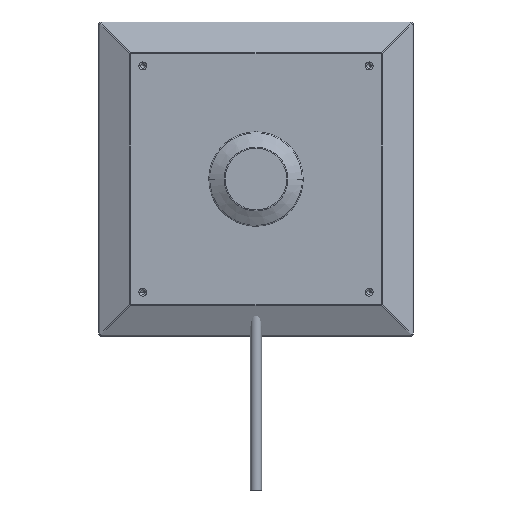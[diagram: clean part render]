
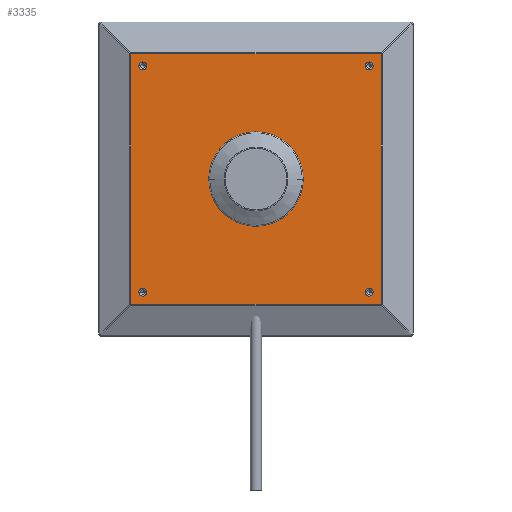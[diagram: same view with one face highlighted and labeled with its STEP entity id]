
A CAD part, front view. The second image highlights one B-rep face of the part: STEP entity #3335.
In plain terms, the highlighted planar face has unit normal (0, -1, 0) as drawn and (0, 1, 0) by its records, which use the part's own axes.
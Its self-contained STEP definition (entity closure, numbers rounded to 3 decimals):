
#9 = CARTESIAN_POINT ( 'NONE',  ( -54., 10., 55.914 ) ) ;
#14 = DIRECTION ( 'NONE',  ( 0., 0., 1. ) ) ;
#107 = EDGE_CURVE ( 'NONE', #1000, #1099, #1517, .T. ) ;
#250 = DIRECTION ( 'NONE',  ( 0., 0., 1. ) ) ;
#282 = AXIS2_PLACEMENT_3D ( 'NONE', #4522, #2954, #2633 ) ;
#301 = VECTOR ( 'NONE', #1056, 1000. ) ;
#338 = CARTESIAN_POINT ( 'NONE',  ( 59.778, 10., 0. ) ) ;
#441 = DIRECTION ( 'NONE',  ( 0., -1., 0. ) ) ;
#447 = DIRECTION ( 'NONE',  ( 0., 0., 1. ) ) ;
#575 = DIRECTION ( 'NONE',  ( 0., 0., 1. ) ) ;
#658 = ORIENTED_EDGE ( 'NONE', *, *, #107, .T. ) ;
#688 = CARTESIAN_POINT ( 'NONE',  ( -54., 10., -55.914 ) ) ;
#689 = VECTOR ( 'NONE', #250, 1000. ) ;
#768 = DIRECTION ( 'NONE',  ( 0., -1., 0. ) ) ;
#786 = VERTEX_POINT ( 'NONE', #3111 ) ;
#792 = ORIENTED_EDGE ( 'NONE', *, *, #1455, .T. ) ;
#798 = AXIS2_PLACEMENT_3D ( 'NONE', #4136, #3015, #4511 ) ;
#800 = DIRECTION ( 'NONE',  ( 0., 0., 1. ) ) ;
#828 = CIRCLE ( 'NONE', #2372, 1.914 ) ;
#918 = EDGE_CURVE ( 'NONE', #3641, #2852, #4218, .T. ) ;
#963 = CARTESIAN_POINT ( 'NONE',  ( 54., 10., 52.086 ) ) ;
#972 = VERTEX_POINT ( 'NONE', #2090 ) ;
#1000 = VERTEX_POINT ( 'NONE', #2914 ) ;
#1004 = DIRECTION ( 'NONE',  ( 0., 1., 0. ) ) ;
#1052 = ORIENTED_EDGE ( 'NONE', *, *, #1077, .T. ) ;
#1056 = DIRECTION ( 'NONE',  ( -1., 0., 0. ) ) ;
#1072 = ORIENTED_EDGE ( 'NONE', *, *, #1947, .T. ) ;
#1077 = EDGE_CURVE ( 'NONE', #2852, #3641, #2577, .T. ) ;
#1099 = VERTEX_POINT ( 'NONE', #1205 ) ;
#1114 = EDGE_CURVE ( 'NONE', #1897, #1953, #1891, .T. ) ;
#1205 = CARTESIAN_POINT ( 'NONE',  ( 59.778, 10., 59.778 ) ) ;
#1235 = ORIENTED_EDGE ( 'NONE', *, *, #3397, .T. ) ;
#1349 = ORIENTED_EDGE ( 'NONE', *, *, #2508, .T. ) ;
#1399 = FACE_OUTER_BOUND ( 'NONE', #1668, .T. ) ;
#1455 = EDGE_CURVE ( 'NONE', #1953, #1897, #2788, .T. ) ;
#1511 = EDGE_CURVE ( 'NONE', #1099, #972, #2865, .T. ) ;
#1517 = LINE ( 'NONE', #3719, #4442 ) ;
#1661 = AXIS2_PLACEMENT_3D ( 'NONE', #4085, #768, #447 ) ;
#1668 = EDGE_LOOP ( 'NONE', ( #658, #3000, #1235, #4632 ) ) ;
#1742 = AXIS2_PLACEMENT_3D ( 'NONE', #3558, #3891, #575 ) ;
#1747 = FACE_BOUND ( 'NONE', #4249, .T. ) ;
#1818 = ORIENTED_EDGE ( 'NONE', *, *, #3065, .T. ) ;
#1891 = CIRCLE ( 'NONE', #282, 1.914 ) ;
#1897 = VERTEX_POINT ( 'NONE', #2248 ) ;
#1928 = EDGE_LOOP ( 'NONE', ( #1072, #1349 ) ) ;
#1947 = EDGE_CURVE ( 'NONE', #2964, #2115, #3971, .T. ) ;
#1953 = VERTEX_POINT ( 'NONE', #4412 ) ;
#2058 = AXIS2_PLACEMENT_3D ( 'NONE', #2147, #3583, #4339 ) ;
#2090 = CARTESIAN_POINT ( 'NONE',  ( 59.778, 10., -59.778 ) ) ;
#2115 = VERTEX_POINT ( 'NONE', #3665 ) ;
#2117 = EDGE_LOOP ( 'NONE', ( #792, #2515 ) ) ;
#2141 = ORIENTED_EDGE ( 'NONE', *, *, #918, .T. ) ;
#2147 = CARTESIAN_POINT ( 'NONE',  ( -54., 10., 54. ) ) ;
#2153 = EDGE_CURVE ( 'NONE', #3852, #3362, #3036, .T. ) ;
#2248 = CARTESIAN_POINT ( 'NONE',  ( 54., 10., -55.914 ) ) ;
#2249 = VECTOR ( 'NONE', #4355, 1000. ) ;
#2367 = CARTESIAN_POINT ( 'NONE',  ( -54., 10., -54. ) ) ;
#2372 = AXIS2_PLACEMENT_3D ( 'NONE', #2367, #3517, #4594 ) ;
#2438 = LINE ( 'NONE', #2463, #689 ) ;
#2463 = CARTESIAN_POINT ( 'NONE',  ( -59.778, 10., 0. ) ) ;
#2508 = EDGE_CURVE ( 'NONE', #2115, #2964, #4147, .T. ) ;
#2515 = ORIENTED_EDGE ( 'NONE', *, *, #1114, .T. ) ;
#2577 = CIRCLE ( 'NONE', #1661, 1.914 ) ;
#2633 = DIRECTION ( 'NONE',  ( 0., 0., 1. ) ) ;
#2788 = CIRCLE ( 'NONE', #3013, 1.914 ) ;
#2852 = VERTEX_POINT ( 'NONE', #963 ) ;
#2855 = DIRECTION ( 'NONE',  ( 0., 0., 1. ) ) ;
#2865 = LINE ( 'NONE', #338, #2249 ) ;
#2900 = FACE_BOUND ( 'NONE', #4047, .T. ) ;
#2911 = AXIS2_PLACEMENT_3D ( 'NONE', #4765, #1004, #2855 ) ;
#2914 = CARTESIAN_POINT ( 'NONE',  ( -59.778, 10., 59.778 ) ) ;
#2954 = DIRECTION ( 'NONE',  ( 0., -1., 0. ) ) ;
#2964 = VERTEX_POINT ( 'NONE', #9 ) ;
#3000 = ORIENTED_EDGE ( 'NONE', *, *, #1511, .T. ) ;
#3013 = AXIS2_PLACEMENT_3D ( 'NONE', #3019, #441, #800 ) ;
#3015 = DIRECTION ( 'NONE',  ( 0., -1., 0. ) ) ;
#3019 = CARTESIAN_POINT ( 'NONE',  ( 54., 10., -54. ) ) ;
#3036 = CIRCLE ( 'NONE', #3512, 1.914 ) ;
#3065 = EDGE_CURVE ( 'NONE', #3362, #3852, #828, .T. ) ;
#3111 = CARTESIAN_POINT ( 'NONE',  ( -59.778, 10., -59.778 ) ) ;
#3227 = FACE_BOUND ( 'NONE', #1928, .T. ) ;
#3283 = CARTESIAN_POINT ( 'NONE',  ( -54., 10., -54. ) ) ;
#3296 = PLANE ( 'NONE',  #2911 ) ;
#3335 = ADVANCED_FACE ( 'NONE', ( #1399, #3589, #1747, #3227, #2900 ), #3296, .T. ) ;
#3344 = EDGE_CURVE ( 'NONE', #786, #1000, #2438, .T. ) ;
#3362 = VERTEX_POINT ( 'NONE', #688 ) ;
#3397 = EDGE_CURVE ( 'NONE', #972, #786, #3925, .T. ) ;
#3512 = AXIS2_PLACEMENT_3D ( 'NONE', #3283, #3658, #14 ) ;
#3517 = DIRECTION ( 'NONE',  ( 0., -1., 0. ) ) ;
#3558 = CARTESIAN_POINT ( 'NONE',  ( 54., 10., 54. ) ) ;
#3583 = DIRECTION ( 'NONE',  ( 0., -1., 0. ) ) ;
#3589 = FACE_BOUND ( 'NONE', #2117, .T. ) ;
#3594 = ORIENTED_EDGE ( 'NONE', *, *, #2153, .T. ) ;
#3641 = VERTEX_POINT ( 'NONE', #4138 ) ;
#3658 = DIRECTION ( 'NONE',  ( 0., -1., 0. ) ) ;
#3665 = CARTESIAN_POINT ( 'NONE',  ( -54., 10., 52.086 ) ) ;
#3719 = CARTESIAN_POINT ( 'NONE',  ( 0., 10., 59.778 ) ) ;
#3740 = DIRECTION ( 'NONE',  ( 1., 0., 0. ) ) ;
#3852 = VERTEX_POINT ( 'NONE', #4272 ) ;
#3891 = DIRECTION ( 'NONE',  ( 0., -1., 0. ) ) ;
#3925 = LINE ( 'NONE', #4370, #301 ) ;
#3971 = CIRCLE ( 'NONE', #798, 1.914 ) ;
#4047 = EDGE_LOOP ( 'NONE', ( #2141, #1052 ) ) ;
#4085 = CARTESIAN_POINT ( 'NONE',  ( 54., 10., 54. ) ) ;
#4136 = CARTESIAN_POINT ( 'NONE',  ( -54., 10., 54. ) ) ;
#4138 = CARTESIAN_POINT ( 'NONE',  ( 54., 10., 55.914 ) ) ;
#4147 = CIRCLE ( 'NONE', #2058, 1.914 ) ;
#4218 = CIRCLE ( 'NONE', #1742, 1.914 ) ;
#4249 = EDGE_LOOP ( 'NONE', ( #3594, #1818 ) ) ;
#4272 = CARTESIAN_POINT ( 'NONE',  ( -54., 10., -52.086 ) ) ;
#4339 = DIRECTION ( 'NONE',  ( 0., 0., 1. ) ) ;
#4355 = DIRECTION ( 'NONE',  ( 0., 0., -1. ) ) ;
#4370 = CARTESIAN_POINT ( 'NONE',  ( 0., 10., -59.778 ) ) ;
#4412 = CARTESIAN_POINT ( 'NONE',  ( 54., 10., -52.086 ) ) ;
#4442 = VECTOR ( 'NONE', #3740, 1000. ) ;
#4511 = DIRECTION ( 'NONE',  ( 0., 0., 1. ) ) ;
#4522 = CARTESIAN_POINT ( 'NONE',  ( 54., 10., -54. ) ) ;
#4594 = DIRECTION ( 'NONE',  ( 0., 0., 1. ) ) ;
#4632 = ORIENTED_EDGE ( 'NONE', *, *, #3344, .T. ) ;
#4765 = CARTESIAN_POINT ( 'NONE',  ( 0., 10., 0. ) ) ;
